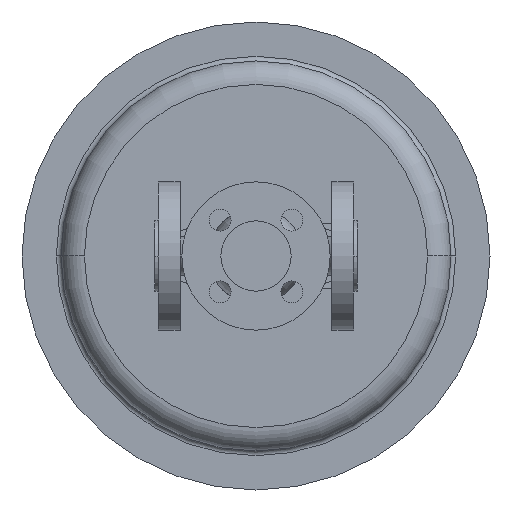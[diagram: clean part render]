
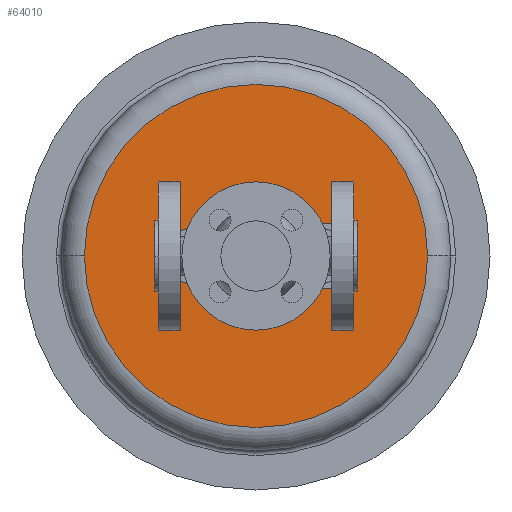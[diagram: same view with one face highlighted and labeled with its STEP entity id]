
A CAD part, front view. The second image highlights one B-rep face of the part: STEP entity #64010.
In plain terms, the highlighted planar face has unit normal (0, -1, 0).
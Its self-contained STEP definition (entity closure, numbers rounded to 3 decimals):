
#50430=CARTESIAN_POINT('',(-45.,541.,0.));
#50440=VERTEX_POINT('',#50430);
#50540=CARTESIAN_POINT('',(175.,541.,0.));
#50550=VERTEX_POINT('',#50540);
#50580=CARTESIAN_POINT('',(65.,541.,0.));
#50590=DIRECTION('',(0.,1.,0.));
#50600=DIRECTION('',(1.,0.,0.));
#50610=AXIS2_PLACEMENT_3D('',#50580,#50590,#50600);
#50620=CIRCLE('',#50610,110.);
#50630=CARTESIAN_POINT('',(65.,541.,110.));
#50640=VERTEX_POINT('',#50630);
#50650=EDGE_CURVE('',#50640,#50550,#50620,.T.);
#50670=EDGE_CURVE('',#50440,#50640,#50620,.T.);
#51250=CARTESIAN_POINT('',(130.,541.,0.));
#51260=VERTEX_POINT('',#51250);
#51420=CARTESIAN_POINT('',(100.,541.,0.));
#51430=VERTEX_POINT('',#51420);
#51460=CARTESIAN_POINT('',(115.,541.,0.));
#51470=DIRECTION('',(0.,1.,0.));
#51480=DIRECTION('',(1.,0.,0.));
#51490=AXIS2_PLACEMENT_3D('',#51460,#51470,#51480);
#51500=CIRCLE('',#51490,15.);
#51510=EDGE_CURVE('',#51430,#51260,#51500,.T.);
#51670=CARTESIAN_POINT('',(0.,541.,0.));
#51680=VERTEX_POINT('',#51670);
#51710=CARTESIAN_POINT('',(15.,541.,0.));
#51720=DIRECTION('',(0.,1.,0.));
#51730=DIRECTION('',(1.,0.,0.));
#51740=AXIS2_PLACEMENT_3D('',#51710,#51720,#51730);
#51750=CIRCLE('',#51740,15.);
#51760=CARTESIAN_POINT('',(30.,541.,0.));
#51770=VERTEX_POINT('',#51760);
#51780=EDGE_CURVE('',#51680,#51770,#51750,.T.);
#52070=CARTESIAN_POINT('',(46.55,541.,0.));
#52080=VERTEX_POINT('',#52070);
#52300=CARTESIAN_POINT('',(83.45,541.,0.));
#52310=VERTEX_POINT('',#52300);
#52340=CARTESIAN_POINT('',(65.,541.,0.));
#52350=DIRECTION('',(0.,1.,0.));
#52360=DIRECTION('',(1.,0.,0.));
#52370=AXIS2_PLACEMENT_3D('',#52340,#52350,#52360);
#52380=CIRCLE('',#52370,18.45);
#52390=EDGE_CURVE('',#52310,#52080,#52380,.T.);
#63750=CARTESIAN_POINT('',(120.,541.,0.));
#63760=DIRECTION('',(0.,-1.,0.));
#63770=DIRECTION('',(-1.,0.,0.));
#63780=AXIS2_PLACEMENT_3D('',#63750,#63760,#63770);
#63790=PLANE('',#63780);
#63800=EDGE_CURVE('',#52080,#52310,#52380,.T.);
#63810=ORIENTED_EDGE('',*,*,#63800,.T.);
#63820=ORIENTED_EDGE('',*,*,#52390,.T.);
#63830=EDGE_LOOP('',(#63820,#63810));
#63840=FACE_BOUND('',#63830,.T.);
#63850=ORIENTED_EDGE('',*,*,#51780,.T.);
#63860=EDGE_CURVE('',#51770,#51680,#51750,.T.);
#63870=ORIENTED_EDGE('',*,*,#63860,.T.);
#63880=EDGE_LOOP('',(#63870,#63850));
#63890=FACE_BOUND('',#63880,.T.);
#63900=EDGE_CURVE('',#51260,#51430,#51500,.T.);
#63910=ORIENTED_EDGE('',*,*,#63900,.T.);
#63920=ORIENTED_EDGE('',*,*,#51510,.T.);
#63930=EDGE_LOOP('',(#63920,#63910));
#63940=FACE_BOUND('',#63930,.T.);
#63950=ORIENTED_EDGE('',*,*,#50650,.F.);
#63960=EDGE_CURVE('',#50550,#50440,#50620,.T.);
#63970=ORIENTED_EDGE('',*,*,#63960,.F.);
#63980=ORIENTED_EDGE('',*,*,#50670,.F.);
#63990=EDGE_LOOP('',(#63980,#63970,#63950));
#64000=FACE_OUTER_BOUND('',#63990,.T.);
#64010=ADVANCED_FACE('',(#63840,#63890,#63940,#64000),#63790,.T.);
